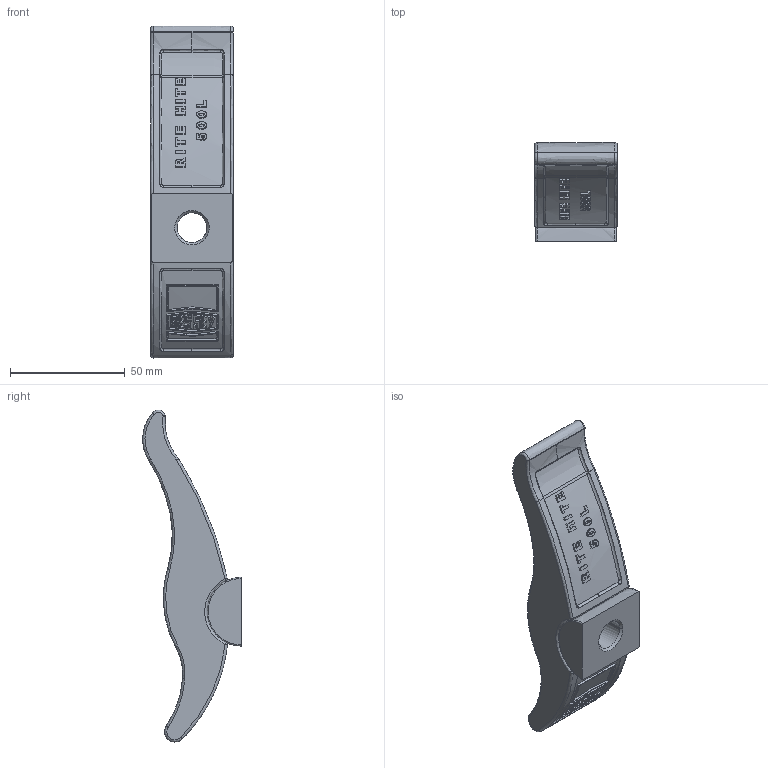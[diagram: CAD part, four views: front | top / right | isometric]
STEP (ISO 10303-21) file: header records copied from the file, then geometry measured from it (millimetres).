
FILE_DESCRIPTION( ( 'STEP AP214' ), '1' );
FILE_NAME( 'Z:/Klein/11_2012/Rite Hite_Drew/500L.stp', ' ', ( ' ' ), ( ' ' ), 'PSStep 11.0', ' ', ' ' );
FILE_SCHEMA( ( 'AUTOMOTIVE_DESIGN { 1 0 10303 214 1 1 1 1 }' ) );
Length unit declared in the file: metre
Products named in the file (2): 1; 2
Bounding box: 36 x 43.05 x 144.81 mm (x, y, z)
Volume: 84486.9 mm3; surface area: 21533.6 mm2
Topology: 2 solids, 2 shells, 422 faces, 1100 edges, 701 vertices
Faces by surface type: bspline 422
Entity records: 24207 total; most frequent: CARTESIAN_POINT 14441, ORIENTED_EDGE 2176, EDGE_CURVE 1088, B_SPLINE_CURVE_WITH_KNOTS 788, VERTEX_POINT 700, EDGE_LOOP 454, STYLED_ITEM 421, PRESENTATION_STYLE_ASSIGNMENT 421
